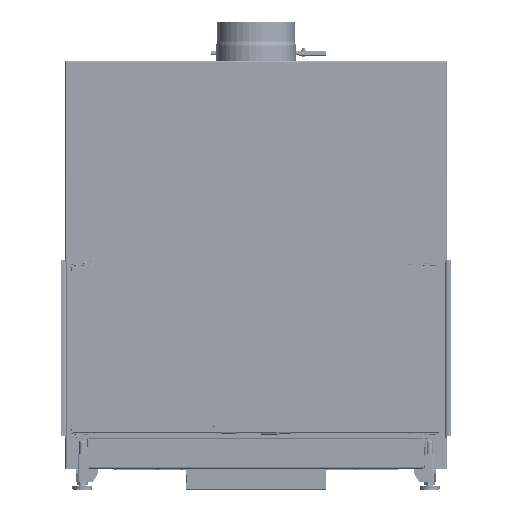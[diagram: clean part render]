
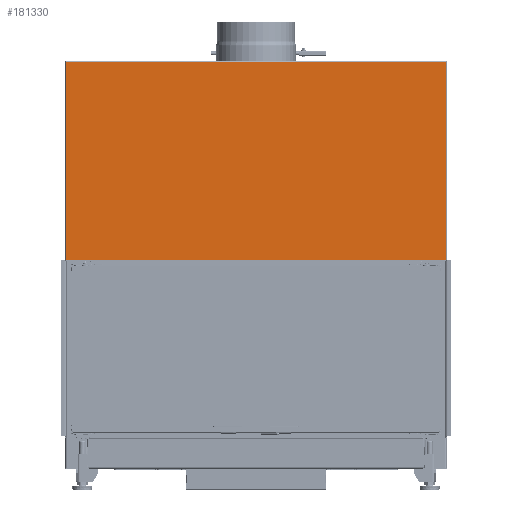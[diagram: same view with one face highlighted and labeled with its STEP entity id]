
A CAD part, front view. The second image highlights one B-rep face of the part: STEP entity #181330.
In plain terms, the highlighted planar face has unit normal (0, -1, 0).
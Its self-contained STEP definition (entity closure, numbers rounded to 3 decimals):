
#15093=FACE_OUTER_BOUND('',#25023,.T.);
#25023=EDGE_LOOP('',(#123453,#123454,#123455,#123456,#123457,#123458));
#36600=LINE('',#277652,#54357);
#36605=LINE('',#277740,#54362);
#36613=LINE('',#277959,#54370);
#36614=LINE('',#277961,#54371);
#36615=LINE('',#277965,#54372);
#36618=LINE('',#277971,#54375);
#54357=VECTOR('',#216256,10.);
#54362=VECTOR('',#216273,10.);
#54370=VECTOR('',#216295,10.);
#54371=VECTOR('',#216298,10.);
#54372=VECTOR('',#216305,10.);
#54375=VECTOR('',#216314,10.);
#73206=VERTEX_POINT('',#277633);
#73207=VERTEX_POINT('',#277644);
#73213=VERTEX_POINT('',#277733);
#73215=VERTEX_POINT('',#277739);
#73224=VERTEX_POINT('',#277950);
#73225=VERTEX_POINT('',#277957);
#92020=EDGE_CURVE('',#73207,#73206,#36600,.T.);
#92032=EDGE_CURVE('',#73215,#73206,#36605,.T.);
#92056=EDGE_CURVE('',#73224,#73225,#36613,.T.);
#92057=EDGE_CURVE('',#73213,#73215,#36614,.T.);
#92059=EDGE_CURVE('',#73225,#73213,#36615,.T.);
#92063=EDGE_CURVE('',#73207,#73224,#36618,.T.);
#123453=ORIENTED_EDGE('',*,*,#92057,.T.);
#123454=ORIENTED_EDGE('',*,*,#92032,.T.);
#123455=ORIENTED_EDGE('',*,*,#92020,.F.);
#123456=ORIENTED_EDGE('',*,*,#92063,.T.);
#123457=ORIENTED_EDGE('',*,*,#92056,.T.);
#123458=ORIENTED_EDGE('',*,*,#92059,.T.);
#169849=PLANE('',#192711);
#181330=ADVANCED_FACE('',(#15093),#169849,.T.);
#192711=AXIS2_PLACEMENT_3D('',#277970,#216312,#216313);
#216256=DIRECTION('',(1.,0.,0.));
#216273=DIRECTION('',(0.,0.,1.));
#216295=DIRECTION('',(0.,0.,-1.));
#216298=DIRECTION('',(0.,0.,1.));
#216305=DIRECTION('',(1.,0.,0.));
#216312=DIRECTION('center_axis',(0.,-1.,0.));
#216313=DIRECTION('ref_axis',(1.,0.,0.));
#216314=DIRECTION('',(0.,0.,-1.));
#277633=CARTESIAN_POINT('',(485.75,-328.496,1042.25));
#277644=CARTESIAN_POINT('',(-485.75,-328.496,1042.25));
#277652=CARTESIAN_POINT('',(0.,-328.496,1042.25));
#277733=CARTESIAN_POINT('',(485.75,-328.496,535.25));
#277739=CARTESIAN_POINT('',(485.75,-328.496,1041.57));
#277740=CARTESIAN_POINT('',(485.75,-328.496,683.846));
#277950=CARTESIAN_POINT('',(-485.75,-328.496,1041.57));
#277957=CARTESIAN_POINT('',(-485.75,-328.496,535.25));
#277959=CARTESIAN_POINT('',(-485.75,-328.496,937.346));
#277961=CARTESIAN_POINT('',(485.75,-328.496,683.846));
#277965=CARTESIAN_POINT('',(244.25,-328.496,535.25));
#277970=CARTESIAN_POINT('Origin',(0.,-328.496,
832.441));
#277971=CARTESIAN_POINT('',(-485.75,-328.496,937.346));
